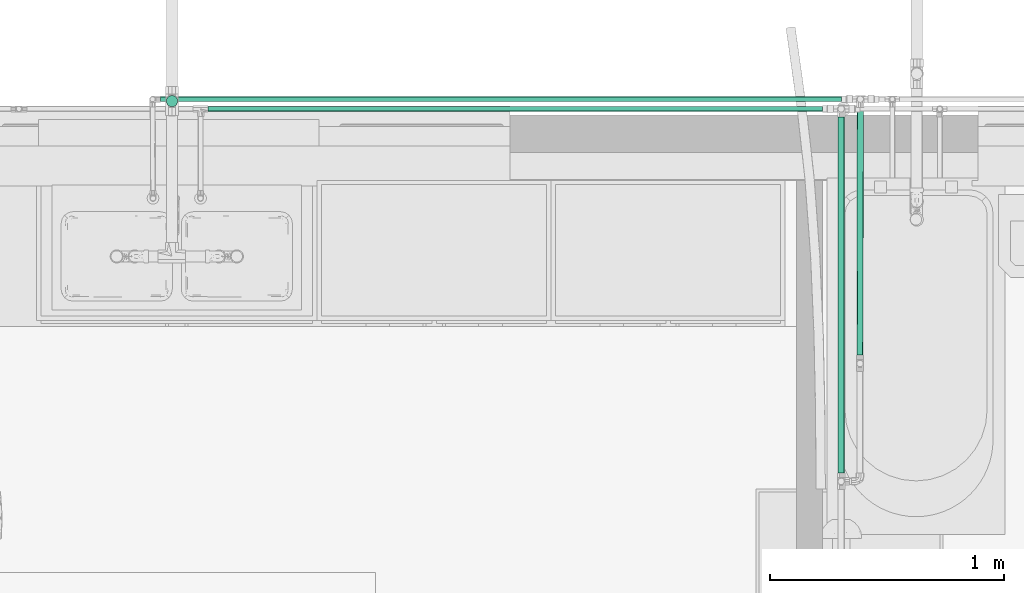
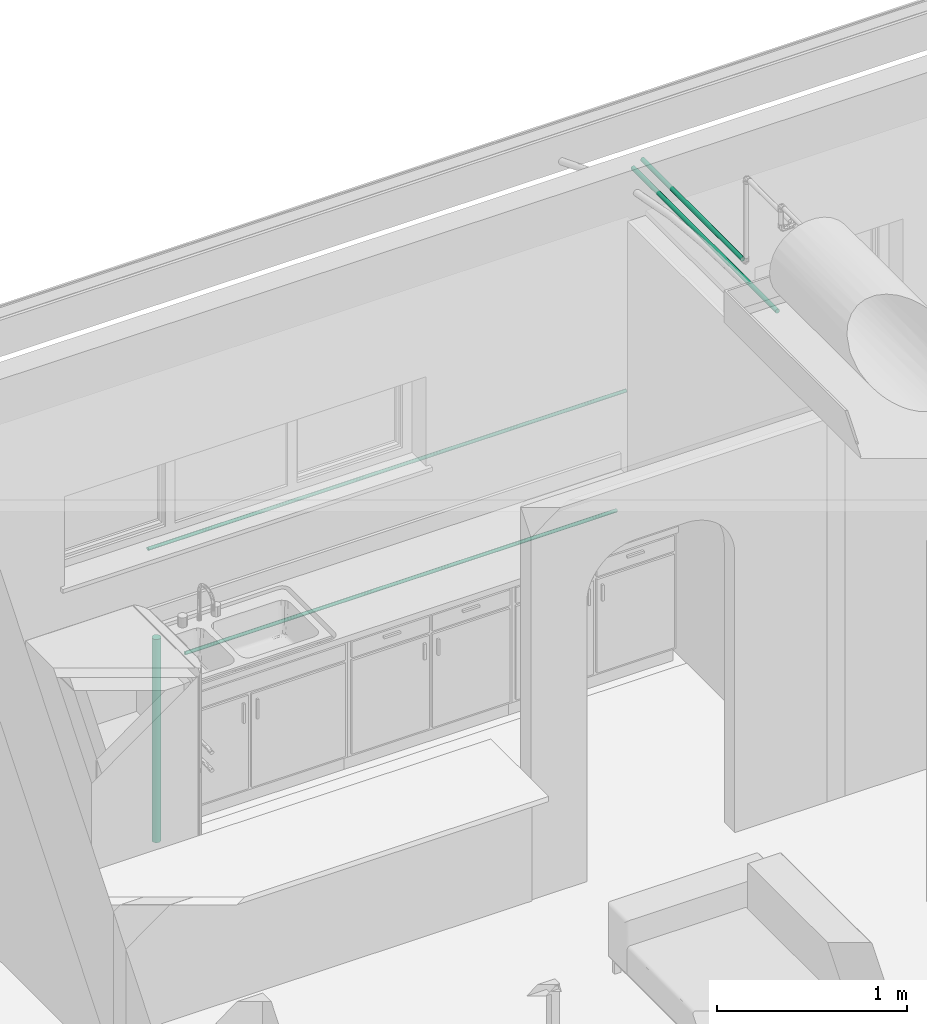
# One storey, part 15 of 41: 5 flow segments.
"""IFC2X3 building model written with IfcOpenShell, lengths in millimetres."""

from ifc_helpers import new_model, entity, si_unit, converted_unit, derived_unit, direction, frame, frame_2d, origin, origin_2d_with_axis, place, context, subcontext, project, spatial, circle, extrude, type_object, element, save


model = new_model("IFC2X3")

# Units and contexts
model_context = context("Model", 3, precision=0.01, world=origin(), true_north=direction((6.12303176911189e-17, 1.0)))
body_context = subcontext(model_context, "Body", "Model", "MODEL_VIEW")
ifc_project = project(units=[si_unit("LENGTHUNIT", "METRE", prefix="MILLI"), si_unit("AREAUNIT", "SQUARE_METRE"), si_unit("VOLUMEUNIT", "CUBIC_METRE"), converted_unit("PLANEANGLEUNIT", "DEGREE", entity("IfcRatioMeasure", 0.0174532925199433), si_unit("PLANEANGLEUNIT", "RADIAN"), dimensions=[0, 0, 0, 0, 0, 0, 0]), si_unit("MASSUNIT", "GRAM", prefix="KILO"), derived_unit("MASSDENSITYUNIT", [(si_unit("MASSUNIT", "GRAM", prefix="KILO"), 1), (si_unit("LENGTHUNIT", "METRE"), -3)]), si_unit("TIMEUNIT", "SECOND"), si_unit("FREQUENCYUNIT", "HERTZ"), si_unit("THERMODYNAMICTEMPERATUREUNIT", "DEGREE_CELSIUS"), derived_unit("THERMALTRANSMITTANCEUNIT", [(si_unit("MASSUNIT", "GRAM", prefix="KILO"), 1), (si_unit("THERMODYNAMICTEMPERATUREUNIT", "KELVIN"), -1), (si_unit("TIMEUNIT", "SECOND"), -3)]), derived_unit("VOLUMETRICFLOWRATEUNIT", [(si_unit("LENGTHUNIT", "METRE"), 3), (si_unit("TIMEUNIT", "SECOND"), -1)]), si_unit("ELECTRICCURRENTUNIT", "AMPERE"), si_unit("ELECTRICVOLTAGEUNIT", "VOLT"), si_unit("POWERUNIT", "WATT"), si_unit("FORCEUNIT", "NEWTON", prefix="KILO"), si_unit("ILLUMINANCEUNIT", "LUX"), si_unit("LUMINOUSFLUXUNIT", "LUMEN"), si_unit("LUMINOUSINTENSITYUNIT", "CANDELA"), derived_unit("USERDEFINED", [(si_unit("MASSUNIT", "GRAM", prefix="KILO"), -1), (si_unit("LENGTHUNIT", "METRE"), -2), (si_unit("TIMEUNIT", "SECOND"), 3), (si_unit("LUMINOUSFLUXUNIT", "LUMEN"), 1)]), derived_unit("LINEARVELOCITYUNIT", [(si_unit("LENGTHUNIT", "METRE"), 1), (si_unit("TIMEUNIT", "SECOND"), -1)]), si_unit("PRESSUREUNIT", "PASCAL"), derived_unit("USERDEFINED", [(si_unit("LENGTHUNIT", "METRE"), -2), (si_unit("MASSUNIT", "GRAM", prefix="KILO"), 1), (si_unit("TIMEUNIT", "SECOND"), -2)])], contexts=[model_context])

# Site, building, storey
site_placement = place(None, origin())
site = spatial("IfcSite", under=ifc_project, at=site_placement, Name="Surface", CompositionType="ELEMENT")
building_placement = place(site_placement, origin())
building = spatial("IfcBuilding", under=site, at=building_placement, CompositionType="ELEMENT")
storey_placement = place(building_placement, frame((0.0, 0.0, 300.0)))
storey = spatial("IfcBuildingStorey", under=building, at=storey_placement, Name="F.F.L", CompositionType="ELEMENT", Elevation=300.0)

# Flow segments
pipe_segment_type = type_object("IfcPipeSegmentType", Name="Pipe Types:PVC80", PredefinedType="NOTDEFINED")
flow_segment_1_placement = place(storey_placement, origin())
element("IfcFlowSegment", 1, at=flow_segment_1_placement, inside=storey, type_object=pipe_segment_type, Name="Pipe Types:PVC80", ObjectType="Pipe Types:PVC80", context=body_context, shape_type="SweptSolid", body=[
    extrude(circle(Radius=10.668, at=frame_2d((1.08286712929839e-11, 0.0), x_axis=(1.0, 0.0))), frame((-7103.52517007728, 10850.8400891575, 383.200000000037), z_axis=(1.0, 0.0, 0.0), x_axis=(0.0, 1.0, 0.0)), (0.0, 0.0, 1.0), 2626.36059999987),
])
flow_segment_2_placement = place(storey_placement, origin())
element("IfcFlowSegment", 2, at=flow_segment_2_placement, inside=storey, type_object=pipe_segment_type, Name="Pipe Types:PVC80", ObjectType="Pipe Types:PVC80", context=body_context, shape_type="SweptSolid", body=[
    extrude(circle(Radius=10.668, at=origin_2d_with_axis()), frame((-7306.20160842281, 10892.2567375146, 1100.0), z_axis=(1.0, 0.0, 0.0), x_axis=(0.0, 1.0, 0.0)), (0.0, 0.0, 1.0), 2910.88699031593),
])
flow_segment_3_placement = place(storey_placement, origin())
element("IfcFlowSegment", 3, at=flow_segment_3_placement, inside=storey, type_object=pipe_segment_type, Name="Pipe Types:PVC80", ObjectType="Pipe Types:PVC80", context=body_context, shape_type="SweptSolid", body=[
    extrude(circle(Radius=24.13, at=origin_2d_with_axis()), frame((-7257.42092415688, 10884.1636765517, -785.914815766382)), (0.0, 0.0, 1.0), 1307.17986804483),
])
flow_segment_4_placement = place(storey_placement, origin())
element("IfcFlowSegment", 4, at=flow_segment_4_placement, inside=storey, type_object=pipe_segment_type, Name="Pipe Types:PVC80", ObjectType="Pipe Types:PVC80", context=body_context, shape_type="SweptSolid", body=[
    extrude(circle(Radius=13.335, at=frame_2d((-2.96384882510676e-15, 0.0), x_axis=(1.0, 0.0))), frame((-4316.52073379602, 9798.2097394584, 2580.0), z_axis=(0.00136851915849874, 0.999999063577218, 0.0), x_axis=(0.999999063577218, -0.00136851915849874, 0.0)), (0.0, 0.0, 1.0), 1058.7030830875),
])
flow_segment_5_placement = place(storey_placement, origin())
element("IfcFlowSegment", 5, at=flow_segment_5_placement, inside=storey, type_object=pipe_segment_type, Name="Pipe Types:PVC80", ObjectType="Pipe Types:PVC80", context=body_context, shape_type="SweptSolid", body=[
    extrude(circle(Radius=13.335, at=origin_2d_with_axis()), frame((-4396.87517007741, 9294.16513589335, 2580.0), z_axis=(0.0, 1.0, 0.0), x_axis=(1.0, 0.0, 0.0)), (0.0, 0.0, 1.0), 1521.34990326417),
])

save(model, "model.ifc")
